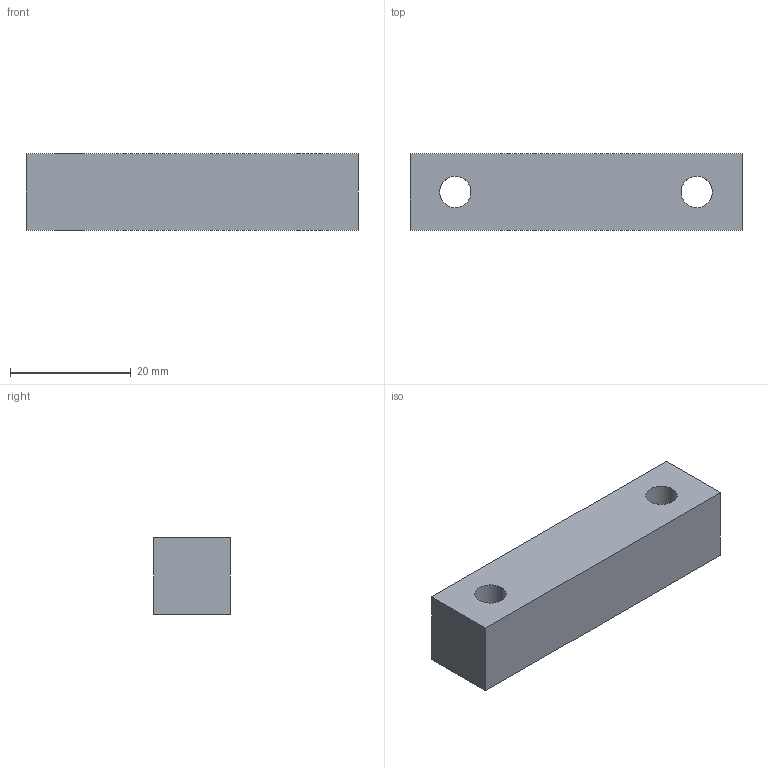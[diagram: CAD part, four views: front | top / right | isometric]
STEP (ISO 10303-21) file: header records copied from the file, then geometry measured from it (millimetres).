
FILE_DESCRIPTION(('Open CASCADE Model'),'2;1');
FILE_NAME('Open CASCADE Shape Model','2026-09-10T23:36:52',('Author'),( 'Open CASCADE'),'Open CASCADE STEP processor 7.9','Open CASCADE 7.9' ,'Unknown');
FILE_SCHEMA(('AUTOMOTIVE_DESIGN { 1 0 10303 214 1 1 1 1 }'));
Length unit declared in the file: millimetre
Products named in the file (1): Open CASCADE STEP translator 7.9 28
Bounding box: 55 x 12.7 x 12.7 mm (x, y, z)
Volume: 8331.5 mm3; surface area: 3446.6 mm2
Topology: 1 solids, 1 shells, 8 faces, 18 edges, 12 vertices
Faces by surface type: plane 6, cylinder 2
Full cylindrical faces by diameter (mm): 5.2 x2
Entity records: 490 total; most frequent: CARTESIAN_POINT 99, DIRECTION 72, LINE 46, VECTOR 46, ORIENTED_EDGE 36, PCURVE 36, DEFINITIONAL_REPRESENTATION 36, EDGE_CURVE 18
